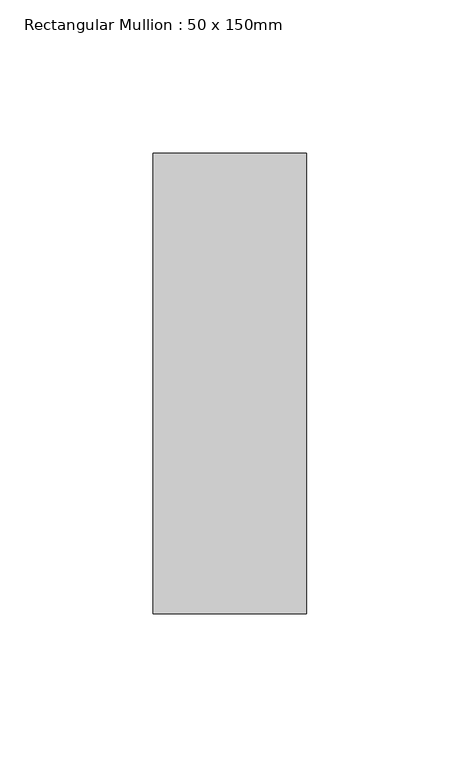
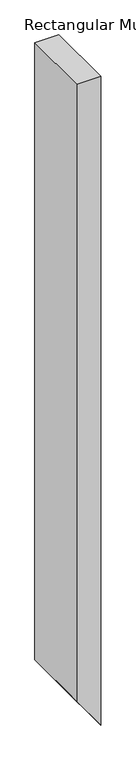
"""IFC4 building model written with IfcOpenShell, lengths in millimetres: member geometry, Rectangular Mullion : 50 x 150mm."""

from ifc_helpers import new_model, si_unit, frame, origin, place, context, project, spatial, polyline, outline, extrude, source, transform, mapped, element, save


def rectangular_mullion_50_x_150mm_d930d7b6(model_context):
    return source(origin(), model_context, "Body", "SweptSolid", [
        extrude(outline(polyline([(0.0, 0.0), (0.0, -50.0), (-1355.9948256, -50.0), (-1426.4926729, 0.0), (0.0, 0.0)])), frame((0.0, -75.0, 0.0), z_axis=(0.0, 1.0, 0.0), x_axis=(0.0, 0.0, 1.0)), (0.0, 0.0, 1.0), 150.0),
    ])


if __name__ == "__main__":
    model = new_model("IFC4")
    model_context = context("Model", 3, world=origin())
    ifc_project = project(units=[si_unit("LENGTHUNIT", "METRE", prefix="MILLI")], contexts=[model_context])
    site = spatial("IfcSite", under=ifc_project)
    building = spatial("IfcBuilding", under=site)
    placement = place(None, origin())
    rectangular_mullion_50_x_150mm_shape = rectangular_mullion_50_x_150mm_d930d7b6(model_context)
    element("IfcMember", 1, ObjectType="Rectangular Mullion : 50 x 150mm", at=placement, inside=building, context=model_context, shape_type="MappedRepresentation", body=[
        mapped(rectangular_mullion_50_x_150mm_shape, transform((0.0, 0.0, 0.0), x_axis=(1.0, 0.0, 0.0), y_axis=(0.0, 1.0, 0.0), z_axis=(0.0, 0.0, 1.0))),
    ])
    save(model, "model.ifc")
